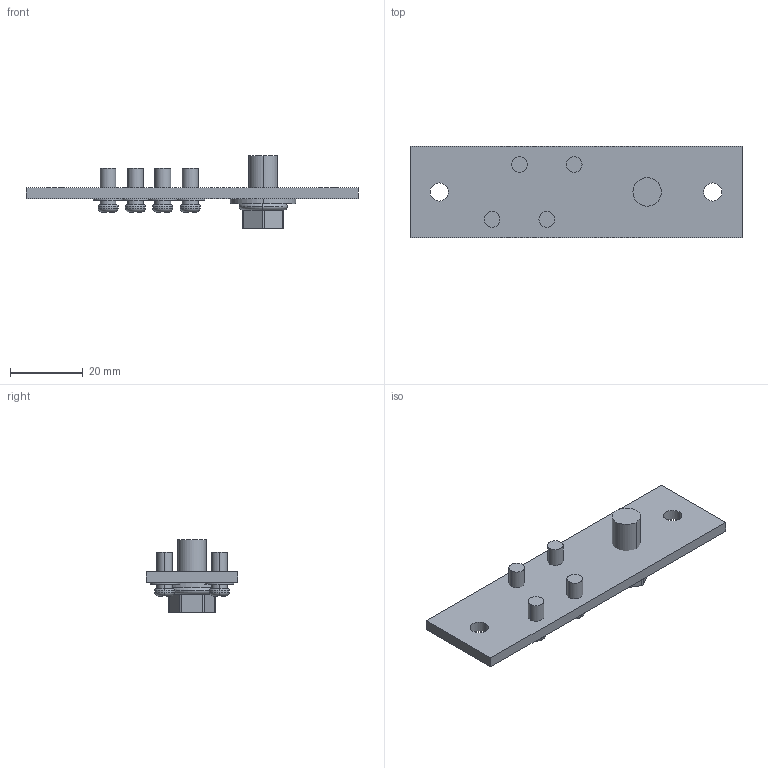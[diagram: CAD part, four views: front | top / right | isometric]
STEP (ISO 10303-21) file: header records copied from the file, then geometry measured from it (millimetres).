
FILE_DESCRIPTION(('Creo Elements/Direct Modeling STEP Export'),'2;1');
FILE_NAME('5.stp','2025-07-24T17:20:08',(''),(''),'PTC Creo Elements/Direct Modeling STEP processor for AP214 (Solid Model)','PTC Creo Elements/Direct Modeling 19.0 09-May-2014 (C) Parametric Technology GmbH','');
FILE_SCHEMA(('AUTOMOTIVE_DESIGN { 1 0 10303 214 1 1 1 1 }'));
Length unit declared in the file: millimetre
Products named in the file (18): QUILT_3-85900_PRT_PRT.PRT; QUILT_2-85520_PRT_PRT.PRT; M5_1_1_1_1_1_1_1_1_1_1_1_1_1_1_.ASM; SCREW_1_2_PRT_PRT_PRT.PRT; SCREW_1_1_PRT_PRT_PRT.PRT; SCREW_1_ASM_ASM_ASM.ASM; SCREW_0723_STP_ASM_ASM.ASM; QUILT_3-34740_PRT_PRT.PRT; QUILT_2-34360_PRT_PRT.PRT; QUILT_1-14960_PRT_PRT.PRT; USER_LIBRARY-SAN_ZU_HE_LUO-2060.PRT; M5_1_1_1_1_1_1_1_1_2_ASM_6_ASM.ASM; A1_ASM_ASM.ASM; CU_PRT_PRT.PRT; 17N_1_ASM_ASM.ASM; 7N_ASM.ASM; 5_STP.ASM; 5.stp
Assembly tree (21 placements, depth 7):
  5.stp
    5_STP.ASM
      7N_ASM.ASM
        17N_1_ASM_ASM.ASM
          CU_PRT_PRT.PRT
          M5_1_1_1_1_1_1_1_1_2_ASM_6_ASM.ASM  x2
            USER_LIBRARY-SAN_ZU_HE_LUO-2060.PRT
            QUILT_1-14960_PRT_PRT.PRT
            QUILT_2-34360_PRT_PRT.PRT
            QUILT_3-34740_PRT_PRT.PRT
          A1_ASM_ASM.ASM
            M5_1_1_1_1_1_1_1_1_2_ASM_6_ASM.ASM  x2
              USER_LIBRARY-SAN_ZU_HE_LUO-2060.PRT
              QUILT_1-14960_PRT_PRT.PRT
              QUILT_2-34360_PRT_PRT.PRT
              QUILT_3-34740_PRT_PRT.PRT
          SCREW_0723_STP_ASM_ASM.ASM
            SCREW_1_ASM_ASM_ASM.ASM
              SCREW_1_1_PRT_PRT_PRT.PRT
              SCREW_1_2_PRT_PRT_PRT.PRT
          M5_1_1_1_1_1_1_1_1_1_1_1_1_1_1_.ASM  x2
            QUILT_2-85520_PRT_PRT.PRT
            QUILT_3-85900_PRT_PRT.PRT
Bounding box: 91 x 25 x 20 mm (x, y, z)
Volume: 8860.8 mm3; surface area: 8103.3 mm2
Topology: 11 solids, 11 shells, 224 faces, 564 edges, 370 vertices
Faces by surface type: plane 124, cylinder 80, torus 20
Entity records: 4059 total; most frequent: CARTESIAN_POINT 618, DIRECTION 558, ORIENTED_EDGE 540, EDGE_CURVE 270, AXIS2_PLACEMENT_3D 205, VERTEX_POINT 178, VECTOR 148, LINE 148
